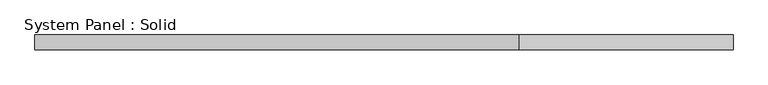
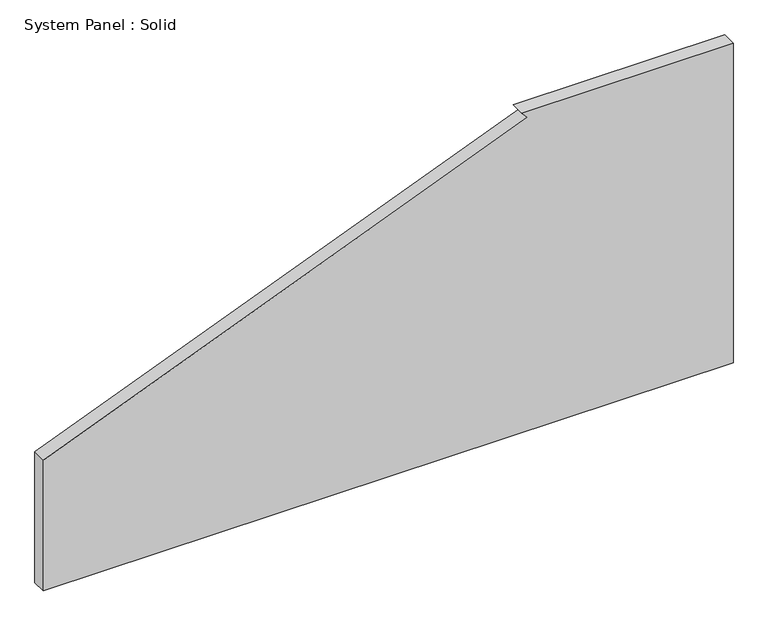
"""IFC4 building model written with IfcOpenShell, lengths in millimetres: plate geometry, System Panel : Solid."""

from ifc_helpers import new_model, si_unit, frame, origin, place, context, project, spatial, polyline, outline, extrude, source, transform, mapped, element, save


def system_panel_solid_52bbc436(model_context):
    return source(origin(), model_context, "Body", "SweptSolid", [
        extrude(outline(polyline([(0.0, -1492.25), (0.0, 1492.25), (1460.5, 1492.25), (1460.5, 577.5351804), (1433.2642384, 601.0496425), (598.7778488, -1492.25), (0.0, -1492.25)])), frame((0.0, -19.05, 0.0), z_axis=(0.0, 1.0, 0.0), x_axis=(0.0, 0.0, 1.0)), (0.0, 0.0, 1.0), 63.5),
    ])


if __name__ == "__main__":
    model = new_model("IFC4")
    model_context = context("Model", 3, world=origin())
    ifc_project = project(units=[si_unit("LENGTHUNIT", "METRE", prefix="MILLI")], contexts=[model_context])
    site = spatial("IfcSite", under=ifc_project)
    building = spatial("IfcBuilding", under=site)
    placement = place(None, origin())
    system_panel_solid_shape = system_panel_solid_52bbc436(model_context)
    element("IfcPlate", 1, ObjectType="System Panel : Solid", at=placement, inside=building, context=model_context, shape_type="MappedRepresentation", body=[
        mapped(system_panel_solid_shape, transform((0.0, 0.0, 0.0), x_axis=(1.0, 0.0, 0.0), y_axis=(0.0, 1.0, 0.0), z_axis=(0.0, 0.0, 1.0))),
    ])
    save(model, "model.ifc")
